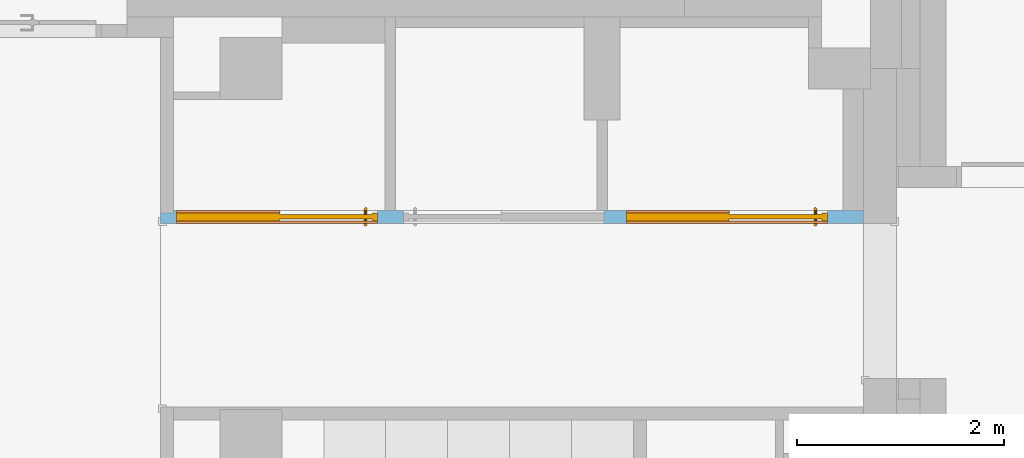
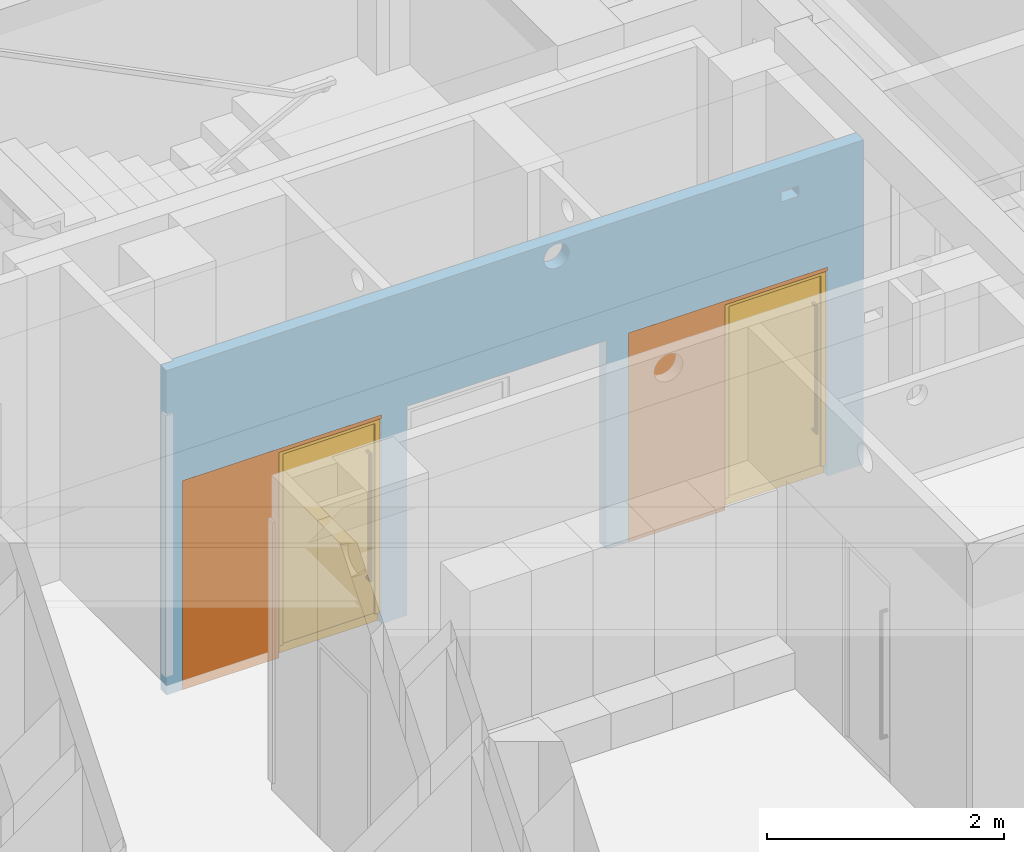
# One storey, part 102 of 140: 2 doors, 2 proxies, 5 openings, plus 1 element that does not belong to this part.
"""IFC4 building model written with IfcOpenShell, lengths in metres."""

from ifc_helpers import new_model, entity, si_unit, converted_unit, derived_unit, frame, origin, origin_with_axes, place, context, subcontext, project, spatial, polyline, outline, extrude, closed_shell, open_shell, faceted_brep, surface_model, source, transform, mapped, material, layer, layer_set, layer_usage, type_object, element, fill, save


model = new_model("IFC4")

# Units and contexts
model_context = context("Model", 3, precision=1e-05, world=origin())
body_context = subcontext(model_context, "Body", "Model", "MODEL_VIEW")
ifc_project = project(units=[si_unit("LENGTHUNIT", "METRE"), si_unit("AREAUNIT", "SQUARE_METRE"), si_unit("VOLUMEUNIT", "CUBIC_METRE"), si_unit("MASSUNIT", "GRAM", prefix="KILO"), converted_unit("PLANEANGLEUNIT", "DEGREE", entity("IfcPlaneAngleMeasure", 0.0174532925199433), si_unit("PLANEANGLEUNIT", "RADIAN"), dimensions=[0, 0, 0, 0, 0, 0, 0]), derived_unit("THERMALTRANSMITTANCEUNIT", [(si_unit("POWERUNIT", "WATT"), 1), (si_unit("THERMODYNAMICTEMPERATUREUNIT", "KELVIN"), -1), (si_unit("LENGTHUNIT", "METRE"), -2)]), derived_unit("VOLUMETRICFLOWRATEUNIT", [(si_unit("LENGTHUNIT", "METRE"), 3), (converted_unit("TIMEUNIT", "hour", entity("IfcTimeMeasure", 3600.0), si_unit("TIMEUNIT", "SECOND"), dimensions=[0, 0, 1, 0, 0, 0, 0]), -1), (si_unit("LENGTHUNIT", "METRE"), -1)])], contexts=[model_context])

# Site, building, storey
site_placement = place(None, origin())
site = spatial("IfcSite", under=ifc_project, at=site_placement, Name="3. ASŘ", CompositionType="ELEMENT")
building_placement = place(site_placement, origin())
building = spatial("IfcBuilding", under=site, at=building_placement, Name="Pavilon C", CompositionType="ELEMENT")
storey_placement = place(building_placement, origin())
storey = spatial("IfcBuildingStorey", under=building, at=storey_placement, Name="Půdorys 1.NP", CompositionType="ELEMENT", Elevation=0.0)

# Wall, openings, doors, proxies
ifc_material_1 = material(Name="SDK - 1 KCE + DVOJITÉ OPLÁŠTĚNÍ")
ifc_layer = layer(ifc_material_1, 0.125)
ifc_layer_set = layer_set([ifc_layer])
ifc_layer_usage = layer_usage(ifc_layer_set, "AXIS2", "POSITIVE", 0.0)
wall_placement = place(storey_placement, frame((43.075, 27.3, -0.1)))
wall = element("IfcWall", 1, at=wall_placement, inside=storey, material=ifc_layer_usage, Name="SDK - 1 KCE + DVOJITÉ OPLÁŠTĚNÍ", context=body_context, shape_type="SweptSolid", body=[
    extrude(outline(polyline([(0.0, 0.0), (6.805, 0.0), (6.805, 0.125), (0.125, 0.125), (0.125, 0.100000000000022), (0.0, 0.100000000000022), (0.0, 0.0)])), origin_with_axes(), (0.0, 0.0, 1.0), 3.35),
])
opening_1_placement = place(wall_placement, frame((0.155, 0.0, 0.0), z_axis=(0.0, 1.0, 0.0), x_axis=(0.0, 0.0, 1.0)))
opening_1 = element("IfcOpeningElement", 2, at=opening_1_placement, cuts=wall, Name="Dveřní otvor", ObjectType="Opening", context=body_context, shape_type="SweptSolid", body=[
    extrude(outline(polyline([(0.0, 1.945), (2.16, 1.945), (2.16, 0.0), (0.0, 0.0), (0.0, 1.945)])), origin_with_axes(), (0.0, 0.0, 1.0), 0.125),
])
opening_2_placement = place(wall_placement, frame((4.51, 0.0, 0.0), z_axis=(0.0, 1.0, 0.0), x_axis=(0.0, 0.0, 1.0)))
opening_2 = element("IfcOpeningElement", 3, at=opening_2_placement, cuts=wall, Name="Dveřní otvor", ObjectType="Opening", context=body_context, shape_type="SweptSolid", body=[
    extrude(outline(polyline([(0.0, 1.945), (2.16, 1.945), (2.16, 0.0), (0.0, 0.0), (0.0, 1.945)])), origin_with_axes(), (0.0, 0.0, 1.0), 0.125),
])
opening_3_placement = place(wall_placement, frame((2.35, 0.0, 0.0), z_axis=(0.0, 1.0, 0.0), x_axis=(0.0, 0.0, 1.0)))
element("IfcOpeningElement", 4, at=opening_3_placement, cuts=wall, Name="Dveřní otvor", ObjectType="Opening", context=body_context, shape_type="SweptSolid", body=[
    extrude(outline(polyline([(0.0, 1.945), (2.16, 1.945), (2.16, 0.0), (0.0, 0.0), (0.0, 1.945)])), origin_with_axes(), (0.0, 0.0, 1.0), 0.125),
])
opening_4_placement = place(wall_placement, frame((6.00075727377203, 0.0, 2.99), z_axis=(0.0, 1.0, 0.0), x_axis=(0.0, 0.0, 1.0)))
element("IfcOpeningElement", 5, at=opening_4_placement, cuts=wall, Name="ZTI", ObjectType="Opening", context=body_context, shape_type="SweptSolid", body=[
    extrude(outline(polyline([(0.0, 0.175), (0.11, 0.175), (0.11, 0.0), (0.0, 0.0), (0.0, 0.175)])), origin_with_axes(), (0.0, 0.0, 1.0), 0.125),
])
opening_5_placement = place(wall_placement, frame((3.685, 0.0, 3.075), z_axis=(0.0, 1.0, 0.0), x_axis=(0.0, 0.0, 1.0)))
element("IfcOpeningElement", 6, at=opening_5_placement, cuts=wall, Name="VZT", ObjectType="Opening", context=body_context, shape_type="SweptSolid", body=[
    extrude(outline(polyline([(0.125, 0.0), (0.111933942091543, 0.000684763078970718), (0.09901103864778, 0.00273154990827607), (0.0863728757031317, 0.00611793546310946), (0.0741579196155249, 0.010806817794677), (0.0625, 0.0167468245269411), (0.0515268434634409, 0.0238728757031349), (0.041358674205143, 0.0321068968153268), (0.0321068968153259, 0.0413586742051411), (0.0238728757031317, 0.0515268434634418), (0.0167468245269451, 0.0625), (0.0108068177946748, 0.0741579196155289), (0.00611793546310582, 0.0863728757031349), (0.00273154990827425, 0.0990110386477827), (0.000684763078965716, 0.111933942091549), (0.0, 0.125), (0.000684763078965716, 0.138066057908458), (0.00273154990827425, 0.150988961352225), (0.00611793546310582, 0.163627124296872), (0.0108068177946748, 0.175842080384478), (0.0167468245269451, 0.1875), (0.0238728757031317, 0.198473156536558), (0.0321068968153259, 0.208641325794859), (0.0413586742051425, 0.217893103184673), (0.0515268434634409, 0.226127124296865), (0.0625, 0.233253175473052), (0.0741579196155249, 0.239193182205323), (0.0863728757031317, 0.243882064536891), (0.09901103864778, 0.247268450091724), (0.111933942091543, 0.249315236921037), (0.125, 0.25), (0.138066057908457, 0.249315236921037), (0.15098896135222, 0.247268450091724), (0.163627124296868, 0.243882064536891), (0.175842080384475, 0.239193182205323), (0.1875, 0.233253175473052), (0.198473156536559, 0.226127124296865), (0.208641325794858, 0.217893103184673), (0.217893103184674, 0.208641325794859), (0.226127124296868, 0.198473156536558), (0.233253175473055, 0.1875), (0.239193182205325, 0.175842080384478), (0.243882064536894, 0.163627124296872), (0.247268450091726, 0.150988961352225), (0.249315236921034, 0.138066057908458), (0.25, 0.125), (0.249315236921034, 0.111933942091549), (0.247268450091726, 0.0990110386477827), (0.243882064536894, 0.0863728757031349), (0.239193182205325, 0.0741579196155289), (0.233253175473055, 0.0625), (0.226127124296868, 0.0515268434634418), (0.217893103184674, 0.0413586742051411), (0.208641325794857, 0.0321068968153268), (0.198473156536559, 0.0238728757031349), (0.1875, 0.0167468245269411), (0.175842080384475, 0.010806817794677), (0.163627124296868, 0.00611793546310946), (0.15098896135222, 0.00273154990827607), (0.138066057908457, 0.000684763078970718), (0.125, 0.0)])), origin_with_axes(), (0.0, 0.0, 1.0), 0.125),
])
door_type_1 = type_object("IfcDoorType", Name="I.DP05", OperationType="NOTDEFINED", ParameterTakesPrecedence=False, PredefinedType="DOOR")
shared_shape_1 = source(origin_with_axes(), body_context, "Body", "SurfaceModel", [
    surface_model("IfcShellBasedSurfaceModel", [(0.0, 0.0924999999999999, 0.0), (1.945, 0.0924999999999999, 0.0), (1.945, 0.0924999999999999, 0.1), (0.0, 0.0924999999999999, 0.1)], [open_shell([[[0, 1, 2, 3]]], orient=[[False]])]),
    surface_model("IfcShellBasedSurfaceModel", [(0.0, 0.13, 2.16), (0.0, 0.13, 0.101), (0.995, 0.13, 0.101), (0.995, 0.13, 2.16), (0.0, 0.0549999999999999, 0.101), (0.0, 0.0550000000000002, 2.16), (0.995, 0.0550000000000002, 2.16), (0.995, 0.0549999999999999, 0.101)], [closed_shell([[[0, 1, 2, 3]], [[4, 5, 6, 7]], [[1, 0, 5, 4]], [[2, 1, 4, 7]], [[3, 2, 7, 6]], [[0, 3, 6, 5]]], orient=[[False], [False], [False], [False], [False], [False]])]),
    surface_model("IfcShellBasedSurfaceModel", [(1.895, 0.13, 2.16), (1.895, 0.13, 0.101), (1.945, 0.13, 0.101), (1.945, 0.13, 2.16), (1.895, 0.0549999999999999, 0.101), (1.895, 0.0550000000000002, 2.16), (1.945, 0.0550000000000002, 2.16), (1.945, 0.0549999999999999, 0.101)], [closed_shell([[[0, 1, 2, 3]], [[4, 5, 6, 7]], [[1, 0, 5, 4]], [[2, 1, 4, 7]], [[3, 2, 7, 6]], [[0, 3, 6, 5]]], orient=[[False], [False], [False], [False], [False], [False]])]),
    surface_model("IfcShellBasedSurfaceModel", [(0.995, 0.13, 2.16), (0.995, 0.13, 2.07), (1.895, 0.13, 2.07), (1.895, 0.13, 2.16), (0.995, 0.0550000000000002, 2.07), (0.995, 0.0550000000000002, 2.16), (1.895, 0.0550000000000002, 2.16), (1.895, 0.0550000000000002, 2.07)], [closed_shell([[[0, 1, 2, 3]], [[4, 5, 6, 7]], [[1, 0, 5, 4]], [[2, 1, 4, 7]], [[3, 2, 7, 6]], [[0, 3, 6, 5]]], orient=[[False], [False], [False], [False], [False], [False]])]),
    surface_model("IfcShellBasedSurfaceModel", [(0.995, 0.11, 2.07), (0.995, 0.11, 0.101), (1.895, 0.11, 0.101), (1.895, 0.11, 2.07), (0.995, 0.0699999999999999, 0.101), (0.995, 0.0700000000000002, 2.07), (1.895, 0.0700000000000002, 2.07), (1.895, 0.0699999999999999, 0.101)], [closed_shell([[[0, 1, 2, 3]], [[4, 5, 6, 7]], [[1, 0, 5, 4]], [[2, 1, 4, 7]], [[3, 2, 7, 6]], [[0, 3, 6, 5]]], orient=[[False], [False], [False], [False], [False], [False]])]),
    surface_model("IfcShellBasedSurfaceModel", [(1.845, 0.0700000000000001, 1.801), (1.84299038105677, 0.0700000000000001, 1.8085), (1.8375, 0.0700000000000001, 1.81399038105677), (1.83, 0.0700000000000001, 1.816), (1.8225, 0.0700000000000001, 1.81399038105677), (1.81700961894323, 0.0700000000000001, 1.8085), (1.815, 0.0700000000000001, 1.801), (1.81700961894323, 0.0700000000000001, 1.7935), (1.8225, 0.0700000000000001, 1.78800961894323), (1.83, 0.0700000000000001, 1.786), (1.8375, 0.0700000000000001, 1.78800961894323), (1.84299038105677, 0.0700000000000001, 1.7935), (1.845, 0.0150000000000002, 1.801), (1.84299038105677, 0.00750000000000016, 1.8085), (1.8375, 0.00200961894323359, 1.81399038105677), (1.83, 1.70530256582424e-16, 1.816), (1.8225, 0.00200961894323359, 1.81399038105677), (1.81700961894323, 0.00750000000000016, 1.8085), (1.815, 0.0150000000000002, 1.801), (1.81700961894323, 0.0225000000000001, 1.7935), (1.8225, 0.0279903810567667, 1.78800961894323), (1.83, 0.0300000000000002, 1.786), (1.8375, 0.0279903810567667, 1.78800961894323), (1.84299038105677, 0.0225000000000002, 1.7935), (1.845, 0.015, 0.501), (1.84299038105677, 0.00749999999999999, 0.4935), (1.8375, 0.00200961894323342, 0.488009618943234), (1.83, 0.0, 0.486), (1.8225, 0.00200961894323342, 0.488009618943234), (1.81700961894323, 0.00749999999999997, 0.4935), (1.815, 0.015, 0.501), (1.81700961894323, 0.0225, 0.5085), (1.8225, 0.0279903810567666, 0.513990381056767), (1.83, 0.03, 0.516), (1.8375, 0.0279903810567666, 0.513990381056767), (1.84299038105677, 0.0225, 0.5085), (1.845, 0.07, 0.501), (1.84299038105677, 0.07, 0.4935), (1.8375, 0.07, 0.488009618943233), (1.83, 0.07, 0.486), (1.8225, 0.07, 0.488009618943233), (1.81700961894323, 0.07, 0.4935), (1.815, 0.07, 0.501), (1.81700961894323, 0.07, 0.5085), (1.8225, 0.07, 0.513990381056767), (1.83, 0.07, 0.516), (1.8375, 0.07, 0.513990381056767), (1.84299038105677, 0.07, 0.5085)], [open_shell([[[0, 1, 2, 3, 4, 5, 6, 7, 8, 9, 10, 11]], [[0, 12, 13, 1]], [[1, 13, 14, 2]], [[2, 14, 15, 3]], [[3, 15, 16, 4]], [[4, 16, 17, 5]], [[5, 17, 18, 6]], [[6, 18, 19, 7]], [[7, 19, 20, 8]], [[8, 20, 21, 9]], [[9, 21, 22, 10]], [[10, 22, 23, 11]], [[11, 23, 12, 0]], [[12, 24, 25, 13]], [[13, 25, 26, 14]], [[14, 26, 27, 15]], [[15, 27, 28, 16]], [[16, 28, 29, 17]], [[17, 29, 30, 18]], [[18, 30, 31, 19]], [[19, 31, 32, 20]], [[20, 32, 33, 21]], [[21, 33, 34, 22]], [[22, 34, 35, 23]], [[23, 35, 24, 12]], [[24, 36, 37, 25]], [[25, 37, 38, 26]], [[26, 38, 39, 27]], [[27, 39, 40, 28]], [[28, 40, 41, 29]], [[29, 41, 42, 30]], [[30, 42, 43, 31]], [[31, 43, 44, 32]], [[32, 44, 45, 33]], [[33, 45, 46, 34]], [[34, 46, 47, 35]], [[35, 47, 36, 24]]], orient=[[False], [False], [False], [False], [False], [False], [False], [False], [False], [False], [False], [False], [False], [False], [False], [False], [False], [False], [False], [False], [False], [False], [False], [False], [False], [False], [False], [False], [False], [False], [False], [False], [False], [False], [False], [False], [False]])]),
    surface_model("IfcShellBasedSurfaceModel", [(1.845, 0.11, 1.801), (1.84299038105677, 0.11, 1.7935), (1.8375, 0.11, 1.78800961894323), (1.83, 0.11, 1.786), (1.8225, 0.11, 1.78800961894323), (1.81700961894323, 0.11, 1.7935), (1.815, 0.11, 1.801), (1.81700961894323, 0.11, 1.8085), (1.8225, 0.11, 1.81399038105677), (1.83, 0.11, 1.816), (1.8375, 0.11, 1.81399038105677), (1.84299038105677, 0.11, 1.8085), (1.84299038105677, 0.1725, 1.8085), (1.845, 0.165, 1.801), (1.8375, 0.177990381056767, 1.81399038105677), (1.83, 0.18, 1.816), (1.8225, 0.177990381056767, 1.81399038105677), (1.81700961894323, 0.1725, 1.8085), (1.815, 0.165, 1.801), (1.81700961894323, 0.1575, 1.7935), (1.8225, 0.152009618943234, 1.78800961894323), (1.83, 0.15, 1.786), (1.8375, 0.152009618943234, 1.78800961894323), (1.84299038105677, 0.1575, 1.7935), (1.84299038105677, 0.1725, 0.4935), (1.845, 0.165, 0.501), (1.8375, 0.177990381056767, 0.488009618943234), (1.83, 0.18, 0.486), (1.8225, 0.177990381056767, 0.488009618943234), (1.81700961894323, 0.1725, 0.4935), (1.815, 0.165, 0.501), (1.81700961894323, 0.1575, 0.5085), (1.8225, 0.152009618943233, 0.513990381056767), (1.83, 0.15, 0.516), (1.8375, 0.152009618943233, 0.513990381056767), (1.84299038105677, 0.1575, 0.5085), (1.84299038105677, 0.11, 0.4935), (1.845, 0.11, 0.501), (1.8375, 0.11, 0.488009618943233), (1.83, 0.11, 0.486), (1.8225, 0.11, 0.488009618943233), (1.81700961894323, 0.11, 0.4935), (1.815, 0.11, 0.501), (1.81700961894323, 0.11, 0.5085), (1.8225, 0.11, 0.513990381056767), (1.83, 0.11, 0.516), (1.8375, 0.11, 0.513990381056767), (1.84299038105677, 0.11, 0.5085)], [open_shell([[[0, 1, 2, 3, 4, 5, 6, 7, 8, 9, 10, 11]], [[0, 11, 12, 13]], [[11, 10, 14, 12]], [[10, 9, 15, 14]], [[9, 8, 16, 15]], [[8, 7, 17, 16]], [[7, 6, 18, 17]], [[6, 5, 19, 18]], [[5, 4, 20, 19]], [[4, 3, 21, 20]], [[3, 2, 22, 21]], [[2, 1, 23, 22]], [[1, 0, 13, 23]], [[13, 12, 24, 25]], [[12, 14, 26, 24]], [[14, 15, 27, 26]], [[15, 16, 28, 27]], [[16, 17, 29, 28]], [[17, 18, 30, 29]], [[18, 19, 31, 30]], [[19, 20, 32, 31]], [[20, 21, 33, 32]], [[21, 22, 34, 33]], [[22, 23, 35, 34]], [[23, 13, 25, 35]], [[25, 24, 36, 37]], [[24, 26, 38, 36]], [[26, 27, 39, 38]], [[27, 28, 40, 39]], [[28, 29, 41, 40]], [[29, 30, 42, 41]], [[30, 31, 43, 42]], [[31, 32, 44, 43]], [[32, 33, 45, 44]], [[33, 34, 46, 45]], [[34, 35, 47, 46]], [[35, 25, 37, 47]]], orient=[[False], [False], [False], [False], [False], [False], [False], [False], [False], [False], [False], [False], [False], [False], [False], [False], [False], [False], [False], [False], [False], [False], [False], [False], [False], [False], [False], [False], [False], [False], [False], [False], [False], [False], [False], [False], [False]])]),
])
door_1_placement = place(opening_1_placement, frame((0.0, 0.0, 0.155), z_axis=(1.0, 0.0, 0.0), x_axis=(0.0, 1.0, -1.22464679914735e-16)))
door_1 = element("IfcDoor", 7, at=door_1_placement, inside=storey, type_object=door_type_1, Name="I.DP05", OverallHeight=2.16, OverallWidth=1.945, context=body_context, shape_type="MappedRepresentation", body=[
    mapped(shared_shape_1, transform((0.0, 0.0, 0.0), x_axis=(1.0, 0.0, 0.0), y_axis=(0.0, -1.0, 0.0), z_axis=(0.0, 0.0, 1.0), scale=1.0)),
])
fill(opening_1, door_1)
door_type_2 = type_object("IfcDoorType", Name="I.DP03", OperationType="NOTDEFINED", ParameterTakesPrecedence=False, PredefinedType="DOOR")
shared_shape_2 = source(origin_with_axes(), body_context, "Body", "SurfaceModel", [
    surface_model("IfcShellBasedSurfaceModel", [(0.0, 0.0924999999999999, 0.0), (1.945, 0.0924999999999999, 0.0), (1.945, 0.0924999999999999, 0.1), (0.0, 0.0924999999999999, 0.1)], [open_shell([[[0, 1, 2, 3]]], orient=[[False]])]),
    surface_model("IfcShellBasedSurfaceModel", [(0.0, 0.13, 2.16), (0.0, 0.13, 0.101), (0.995, 0.13, 0.101), (0.995, 0.13, 2.16), (0.0, 0.0549999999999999, 0.101), (0.0, 0.0550000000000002, 2.16), (0.995, 0.0550000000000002, 2.16), (0.995, 0.0549999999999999, 0.101)], [closed_shell([[[0, 1, 2, 3]], [[4, 5, 6, 7]], [[1, 0, 5, 4]], [[2, 1, 4, 7]], [[3, 2, 7, 6]], [[0, 3, 6, 5]]], orient=[[False], [False], [False], [False], [False], [False]])]),
    surface_model("IfcShellBasedSurfaceModel", [(1.895, 0.13, 2.16), (1.895, 0.13, 0.101), (1.945, 0.13, 0.101), (1.945, 0.13, 2.16), (1.895, 0.0549999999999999, 0.101), (1.895, 0.0550000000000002, 2.16), (1.945, 0.0550000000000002, 2.16), (1.945, 0.0549999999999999, 0.101)], [closed_shell([[[0, 1, 2, 3]], [[4, 5, 6, 7]], [[1, 0, 5, 4]], [[2, 1, 4, 7]], [[3, 2, 7, 6]], [[0, 3, 6, 5]]], orient=[[False], [False], [False], [False], [False], [False]])]),
    surface_model("IfcShellBasedSurfaceModel", [(0.995, 0.13, 2.16), (0.995, 0.13, 2.07), (1.895, 0.13, 2.07), (1.895, 0.13, 2.16), (0.995, 0.0550000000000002, 2.07), (0.995, 0.0550000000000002, 2.16), (1.895, 0.0550000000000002, 2.16), (1.895, 0.0550000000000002, 2.07)], [closed_shell([[[0, 1, 2, 3]], [[4, 5, 6, 7]], [[1, 0, 5, 4]], [[2, 1, 4, 7]], [[3, 2, 7, 6]], [[0, 3, 6, 5]]], orient=[[False], [False], [False], [False], [False], [False]])]),
    surface_model("IfcShellBasedSurfaceModel", [(0.995, 0.11, 2.07), (0.995, 0.11, 0.101), (1.895, 0.11, 0.101), (1.895, 0.11, 2.07), (0.995, 0.0699999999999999, 0.101), (0.995, 0.0700000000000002, 2.07), (1.895, 0.0700000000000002, 2.07), (1.895, 0.0699999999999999, 0.101)], [closed_shell([[[0, 1, 2, 3]], [[4, 5, 6, 7]], [[1, 0, 5, 4]], [[2, 1, 4, 7]], [[3, 2, 7, 6]], [[0, 3, 6, 5]]], orient=[[False], [False], [False], [False], [False], [False]])]),
    surface_model("IfcShellBasedSurfaceModel", [(1.845, 0.0700000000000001, 1.801), (1.84299038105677, 0.0700000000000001, 1.8085), (1.8375, 0.0700000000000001, 1.81399038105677), (1.83, 0.0700000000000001, 1.816), (1.8225, 0.0700000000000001, 1.81399038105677), (1.81700961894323, 0.0700000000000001, 1.8085), (1.815, 0.0700000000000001, 1.801), (1.81700961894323, 0.0700000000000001, 1.7935), (1.8225, 0.0700000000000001, 1.78800961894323), (1.83, 0.0700000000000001, 1.786), (1.8375, 0.0700000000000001, 1.78800961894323), (1.84299038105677, 0.0700000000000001, 1.7935), (1.845, 0.0150000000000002, 1.801), (1.84299038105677, 0.00750000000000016, 1.8085), (1.8375, 0.00200961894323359, 1.81399038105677), (1.83, 1.70530256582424e-16, 1.816), (1.8225, 0.00200961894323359, 1.81399038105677), (1.81700961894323, 0.00750000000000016, 1.8085), (1.815, 0.0150000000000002, 1.801), (1.81700961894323, 0.0225000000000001, 1.7935), (1.8225, 0.0279903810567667, 1.78800961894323), (1.83, 0.0300000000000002, 1.786), (1.8375, 0.0279903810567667, 1.78800961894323), (1.84299038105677, 0.0225000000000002, 1.7935), (1.845, 0.015, 0.501), (1.84299038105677, 0.00749999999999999, 0.4935), (1.8375, 0.00200961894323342, 0.488009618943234), (1.83, 0.0, 0.486), (1.8225, 0.00200961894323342, 0.488009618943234), (1.81700961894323, 0.00749999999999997, 0.4935), (1.815, 0.015, 0.501), (1.81700961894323, 0.0225, 0.5085), (1.8225, 0.0279903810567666, 0.513990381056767), (1.83, 0.03, 0.516), (1.8375, 0.0279903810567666, 0.513990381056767), (1.84299038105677, 0.0225, 0.5085), (1.845, 0.07, 0.501), (1.84299038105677, 0.07, 0.4935), (1.8375, 0.07, 0.488009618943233), (1.83, 0.07, 0.486), (1.8225, 0.07, 0.488009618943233), (1.81700961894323, 0.07, 0.4935), (1.815, 0.07, 0.501), (1.81700961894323, 0.07, 0.5085), (1.8225, 0.07, 0.513990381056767), (1.83, 0.07, 0.516), (1.8375, 0.07, 0.513990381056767), (1.84299038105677, 0.07, 0.5085)], [open_shell([[[0, 1, 2, 3, 4, 5, 6, 7, 8, 9, 10, 11]], [[0, 12, 13, 1]], [[1, 13, 14, 2]], [[2, 14, 15, 3]], [[3, 15, 16, 4]], [[4, 16, 17, 5]], [[5, 17, 18, 6]], [[6, 18, 19, 7]], [[7, 19, 20, 8]], [[8, 20, 21, 9]], [[9, 21, 22, 10]], [[10, 22, 23, 11]], [[11, 23, 12, 0]], [[12, 24, 25, 13]], [[13, 25, 26, 14]], [[14, 26, 27, 15]], [[15, 27, 28, 16]], [[16, 28, 29, 17]], [[17, 29, 30, 18]], [[18, 30, 31, 19]], [[19, 31, 32, 20]], [[20, 32, 33, 21]], [[21, 33, 34, 22]], [[22, 34, 35, 23]], [[23, 35, 24, 12]], [[24, 36, 37, 25]], [[25, 37, 38, 26]], [[26, 38, 39, 27]], [[27, 39, 40, 28]], [[28, 40, 41, 29]], [[29, 41, 42, 30]], [[30, 42, 43, 31]], [[31, 43, 44, 32]], [[32, 44, 45, 33]], [[33, 45, 46, 34]], [[34, 46, 47, 35]], [[35, 47, 36, 24]]], orient=[[False], [False], [False], [False], [False], [False], [False], [False], [False], [False], [False], [False], [False], [False], [False], [False], [False], [False], [False], [False], [False], [False], [False], [False], [False], [False], [False], [False], [False], [False], [False], [False], [False], [False], [False], [False], [False]])]),
    surface_model("IfcShellBasedSurfaceModel", [(1.845, 0.11, 1.801), (1.84299038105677, 0.11, 1.7935), (1.8375, 0.11, 1.78800961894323), (1.83, 0.11, 1.786), (1.8225, 0.11, 1.78800961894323), (1.81700961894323, 0.11, 1.7935), (1.815, 0.11, 1.801), (1.81700961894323, 0.11, 1.8085), (1.8225, 0.11, 1.81399038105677), (1.83, 0.11, 1.816), (1.8375, 0.11, 1.81399038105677), (1.84299038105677, 0.11, 1.8085), (1.84299038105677, 0.1725, 1.8085), (1.845, 0.165, 1.801), (1.8375, 0.177990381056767, 1.81399038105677), (1.83, 0.18, 1.816), (1.8225, 0.177990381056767, 1.81399038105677), (1.81700961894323, 0.1725, 1.8085), (1.815, 0.165, 1.801), (1.81700961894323, 0.1575, 1.7935), (1.8225, 0.152009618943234, 1.78800961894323), (1.83, 0.15, 1.786), (1.8375, 0.152009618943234, 1.78800961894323), (1.84299038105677, 0.1575, 1.7935), (1.84299038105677, 0.1725, 0.4935), (1.845, 0.165, 0.501), (1.8375, 0.177990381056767, 0.488009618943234), (1.83, 0.18, 0.486), (1.8225, 0.177990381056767, 0.488009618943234), (1.81700961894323, 0.1725, 0.4935), (1.815, 0.165, 0.501), (1.81700961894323, 0.1575, 0.5085), (1.8225, 0.152009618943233, 0.513990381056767), (1.83, 0.15, 0.516), (1.8375, 0.152009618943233, 0.513990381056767), (1.84299038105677, 0.1575, 0.5085), (1.84299038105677, 0.11, 0.4935), (1.845, 0.11, 0.501), (1.8375, 0.11, 0.488009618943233), (1.83, 0.11, 0.486), (1.8225, 0.11, 0.488009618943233), (1.81700961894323, 0.11, 0.4935), (1.815, 0.11, 0.501), (1.81700961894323, 0.11, 0.5085), (1.8225, 0.11, 0.513990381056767), (1.83, 0.11, 0.516), (1.8375, 0.11, 0.513990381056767), (1.84299038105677, 0.11, 0.5085)], [open_shell([[[0, 1, 2, 3, 4, 5, 6, 7, 8, 9, 10, 11]], [[0, 11, 12, 13]], [[11, 10, 14, 12]], [[10, 9, 15, 14]], [[9, 8, 16, 15]], [[8, 7, 17, 16]], [[7, 6, 18, 17]], [[6, 5, 19, 18]], [[5, 4, 20, 19]], [[4, 3, 21, 20]], [[3, 2, 22, 21]], [[2, 1, 23, 22]], [[1, 0, 13, 23]], [[13, 12, 24, 25]], [[12, 14, 26, 24]], [[14, 15, 27, 26]], [[15, 16, 28, 27]], [[16, 17, 29, 28]], [[17, 18, 30, 29]], [[18, 19, 31, 30]], [[19, 20, 32, 31]], [[20, 21, 33, 32]], [[21, 22, 34, 33]], [[22, 23, 35, 34]], [[23, 13, 25, 35]], [[25, 24, 36, 37]], [[24, 26, 38, 36]], [[26, 27, 39, 38]], [[27, 28, 40, 39]], [[28, 29, 41, 40]], [[29, 30, 42, 41]], [[30, 31, 43, 42]], [[31, 32, 44, 43]], [[32, 33, 45, 44]], [[33, 34, 46, 45]], [[34, 35, 47, 46]], [[35, 25, 37, 47]]], orient=[[False], [False], [False], [False], [False], [False], [False], [False], [False], [False], [False], [False], [False], [False], [False], [False], [False], [False], [False], [False], [False], [False], [False], [False], [False], [False], [False], [False], [False], [False], [False], [False], [False], [False], [False], [False], [False]])]),
])
door_2_placement = place(opening_2_placement, frame((0.0, 0.0, 0.155), z_axis=(1.0, 0.0, 0.0), x_axis=(0.0, 1.0, -1.22464679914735e-16)))
door_2 = element("IfcDoor", 8, at=door_2_placement, inside=storey, type_object=door_type_2, Name="I.DP03", OverallHeight=2.16, OverallWidth=1.945, context=body_context, shape_type="MappedRepresentation", body=[
    mapped(shared_shape_2, transform((0.0, 0.0, 0.0), x_axis=(1.0, 0.0, 0.0), y_axis=(0.0, -1.0, 0.0), z_axis=(0.0, 0.0, 1.0), scale=1.0)),
])
fill(opening_2, door_2)
ifc_material_2 = material(Name="SDK - 1 KCE + DVOJITÉ OPLÁŠTĚNÍ")
proxy_1_placement = place(opening_1_placement, origin())
proxy_1 = element("IfcBuildingElementProxy", 9, at=proxy_1_placement, inside=storey, material=ifc_material_2, context=body_context, shape_type="Brep", body=[
    faceted_brep([(0.0, 0.0, 7.105427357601e-18), (0.0, 0.0, 0.025), (2.16, 0.0, 0.025), (2.16, 0.0, 7.105427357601e-18), (0.0, 0.945, 0.025), (0.0, 0.945, 7.105427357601e-18), (2.12, 0.945, 7.105427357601e-18), (2.12, 0.945, 0.025), (2.12, 1.945, 0.025), (2.16, 1.945, 0.025), (2.12, 1.945, 7.105427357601e-18), (2.16, 1.945, 7.105427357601e-18), (0.0, 0.945, 0.125), (0.0, 0.0, 0.125), (0.0, 0.0, 0.1), (0.0, 0.945, 0.1), (2.12, 0.945, 0.1), (2.12, 0.945, 0.125), (2.12, 1.0, 0.125), (2.12, 1.0, 0.1), (2.16, 1.0, 0.1), (2.16, 1.0, 0.125), (2.16, 0.0, 0.125), (2.16, 0.0, 0.1)], [[[0, 1, 2, 3]], [[4, 5, 6, 7]], [[0, 5, 4, 1]], [[8, 9, 2, 1, 4, 7]], [[8, 10, 11, 9]], [[10, 6, 5, 0, 3, 11]], [[3, 2, 9, 11]], [[7, 6, 10, 8]], [[12, 13, 14, 15]], [[12, 15, 16, 17]], [[18, 19, 20, 21]], [[16, 19, 18, 17]], [[22, 21, 20, 23]], [[22, 13, 12, 17, 18, 21]], [[14, 13, 22, 23]], [[23, 20, 19, 16, 15, 14]]], orient=[[False], [False], [False], [False], [False], [False], [False], [False], [False], [False], [False], [False], [False], [False], [False], [False]]),
])
fill(opening_1, proxy_1)
ifc_material_3 = material(Name="SDK - 1 KCE + DVOJITÉ OPLÁŠTĚNÍ")
proxy_2_placement = place(opening_2_placement, origin())
proxy_2 = element("IfcBuildingElementProxy", 10, at=proxy_2_placement, inside=storey, material=ifc_material_3, context=body_context, shape_type="Brep", body=[
    faceted_brep([(2.12, 1.0, 0.125), (2.12, 1.0, 0.1), (2.16, 1.0, 0.1), (2.16, 1.0, 0.125), (2.12, 0.945, 0.125), (2.12, 0.945, 0.1), (0.0, 0.0, 0.125), (2.16, 0.0, 0.125), (2.16, 0.0, 0.1), (0.0, 0.0, 0.1), (0.0, 0.945, 0.125), (0.0, 0.945, 0.1), (0.0, 0.0, 7.105427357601e-18), (0.0, 0.0, 0.025), (2.16, 0.0, 0.025), (2.16, 0.0, 7.105427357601e-18), (2.16, 1.945, 0.025), (2.16, 1.945, 7.105427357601e-18), (0.0, 0.945, 7.105427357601e-18), (0.0, 0.945, 0.025), (2.12, 1.945, 7.105427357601e-18), (2.12, 0.945, 7.105427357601e-18), (2.12, 0.945, 0.025), (2.12, 1.945, 0.025)], [[[0, 1, 2, 3]], [[1, 0, 4, 5]], [[6, 7, 8, 9]], [[10, 4, 0, 3, 7, 6]], [[10, 6, 9, 11]], [[11, 9, 8, 2, 1, 5]], [[4, 10, 11, 5]], [[7, 3, 2, 8]], [[12, 13, 14, 15]], [[15, 14, 16, 17]], [[12, 18, 19, 13]], [[18, 12, 15, 17, 20, 21]], [[13, 19, 22, 23, 16, 14]], [[19, 18, 21, 22]], [[23, 20, 17, 16]], [[22, 21, 20, 23]]], orient=[[False], [False], [False], [False], [False], [False], [False], [False], [False], [False], [False], [False], [False], [False], [False], [False]]),
])
fill(opening_2, proxy_2)

save(model, "model.ifc")
